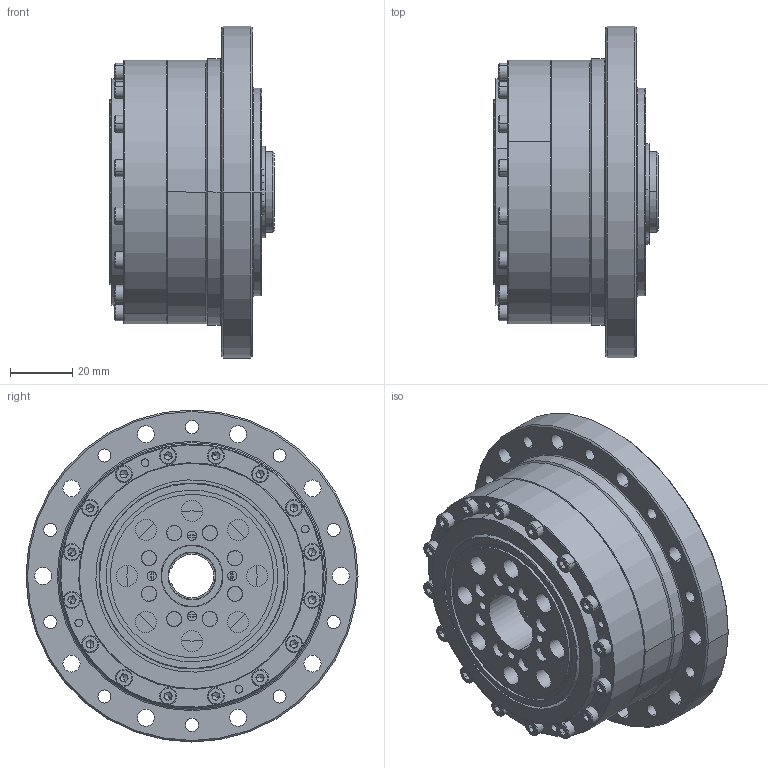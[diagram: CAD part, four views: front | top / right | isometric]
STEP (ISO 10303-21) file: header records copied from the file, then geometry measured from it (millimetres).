
FILE_DESCRIPTION (( 'STEP AP203' ), '1' );
FILE_NAME ('BCSG-25-XXX-U-¢ò.STEP', '2019-01-15T03:35:31', ( 'User' ), ( 'China' ), 'SwSTEP 2.0', 'SolidWorks 2015', '' );
FILE_SCHEMA (( 'CONFIG_CONTROL_DESIGN' ));
Length unit declared in the file: millimetre
Products named in the file (1): BCSG-25-XXX-U-ｊ
Bounding box: 53 x 107 x 107 mm (x, y, z)
Surface area: 64416.6 mm2 (no closed solid volume)
Topology: 0 solids, 56 shells, 521 faces, 1595 edges, 1042 vertices
Faces by surface type: plane 183, cylinder 174, cone 108, sphere 40, torus 14, bspline 2
Entity records: 17126 total; most frequent: DIRECTION 3256, CARTESIAN_POINT 3005, ORIENTED_EDGE 2454, EDGE_CURVE 1463, AXIS2_PLACEMENT_3D 1281, VERTEX_POINT 982, CIRCLE 761, VECTOR 694
